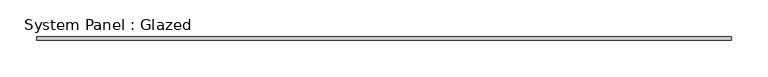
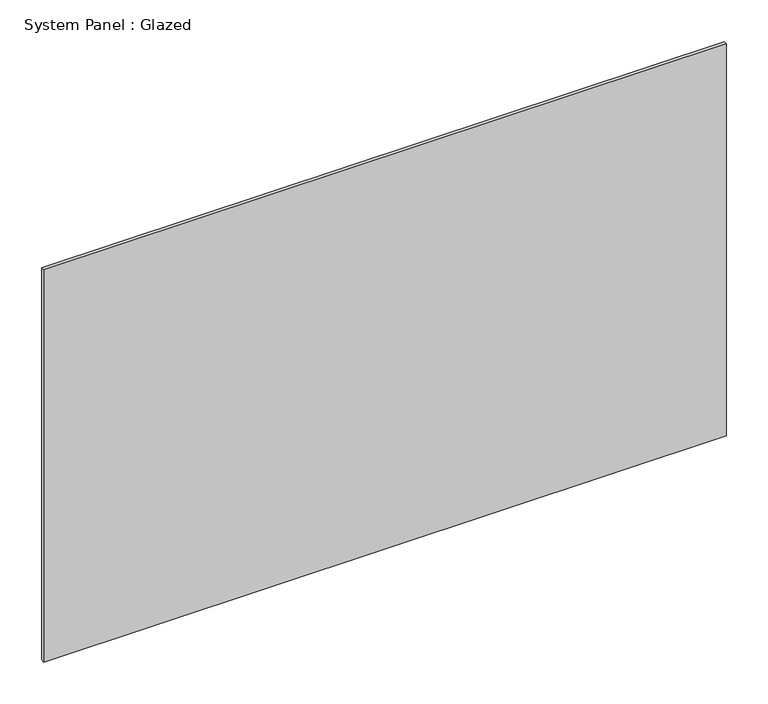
"""IFC4 building model written with IfcOpenShell, lengths in millimetres: plate geometry, System Panel : Glazed."""

from ifc_helpers import new_model, si_unit, origin, origin_with_axes, place, context, project, spatial, polyline, outline, extrude, source, transform, mapped, element, save


def system_panel_glazed_870feb4d(model_context):
    return source(origin(), model_context, "Body", "SweptSolid", [
        extrude(outline(polyline([(475.0, -2.5), (-475.0, -2.5), (-475.0, 2.5), (475.0, 2.5), (475.0, -2.5)])), origin_with_axes(), (0.0, 0.0, 1.0), 576.9934774),
    ])


if __name__ == "__main__":
    model = new_model("IFC4")
    model_context = context("Model", 3, world=origin())
    ifc_project = project(units=[si_unit("LENGTHUNIT", "METRE", prefix="MILLI")], contexts=[model_context])
    site = spatial("IfcSite", under=ifc_project)
    building = spatial("IfcBuilding", under=site)
    placement = place(None, origin())
    system_panel_glazed_shape = system_panel_glazed_870feb4d(model_context)
    element("IfcPlate", 1, ObjectType="System Panel : Glazed", at=placement, inside=building, context=model_context, shape_type="MappedRepresentation", body=[
        mapped(system_panel_glazed_shape, transform((0.0, 0.0, 0.0), x_axis=(1.0, 0.0, 0.0), y_axis=(0.0, 1.0, 0.0), z_axis=(0.0, 0.0, 1.0))),
    ])
    save(model, "model.ifc")
